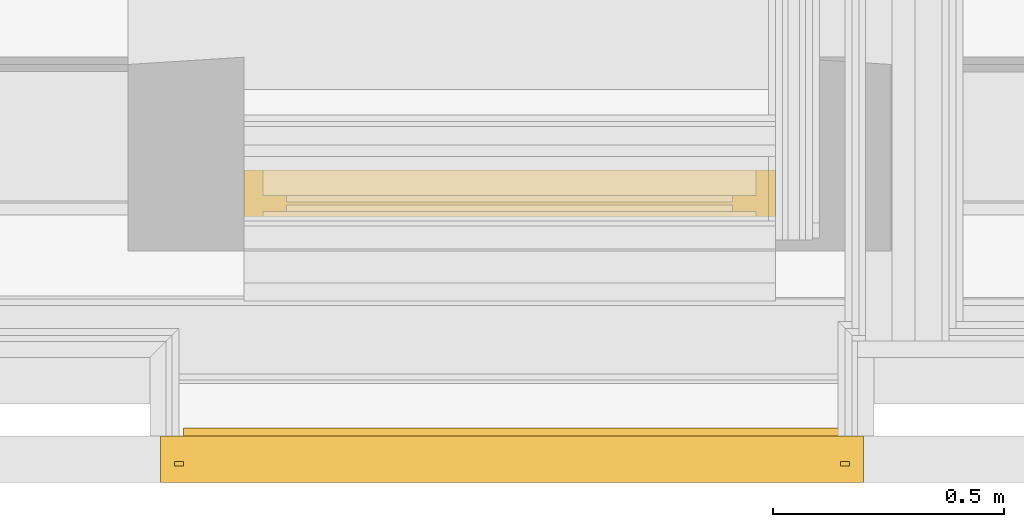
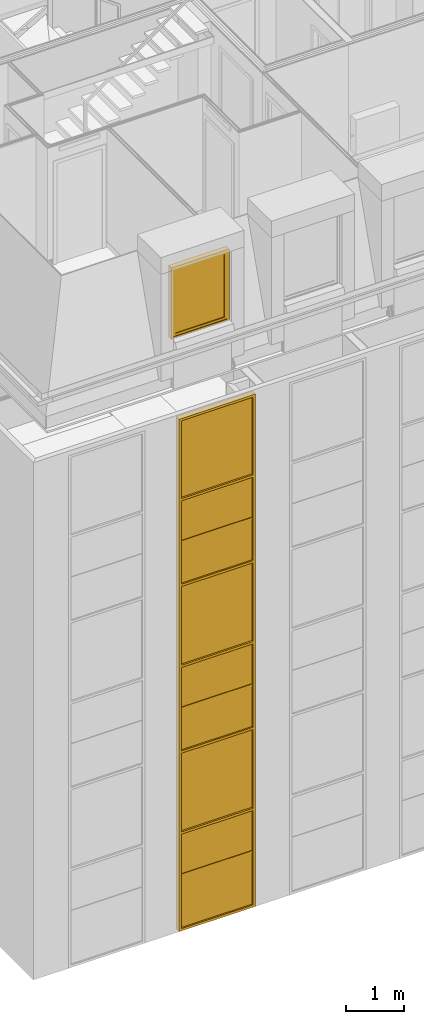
# One storey, part 92 of 169: 1 curtain wall, 1 window.
"""IFC2X3 building model written with IfcOpenShell, lengths in metres."""

import ifcopenshell
import ifcopenshell.guid

model = None  # the IFC model being written
_history = None  # IfcOwnerHistory: only IFC2X3 demands one
_inside = {}  # id of a spatial element -> (the spatial element, [elements in it])
_under = {}  # id of a project, library or spatial element -> (it, [spatial elements below it])
_declared = {}  # id of a project -> (the project, [libraries it declares])
_typed = {}  # id of a type object -> (the type object, [elements of that type])
_made_of = {}  # id of a material, layer set ... -> (it, [elements and type objects made of it])


def new_model(schema):
    """Start an empty IFC model of exactly this schema.

    Asked for "IFC4X3", IfcOpenShell would pick the latest addendum, in which some entities
    have other attributes; the version numbers below select the first issue.
    IFC2X3 requires an IfcOwnerHistory on every rooted entity: one is made here for all.
    """
    global model, _history
    if schema == "IFC4X3":
        model = ifcopenshell.file(schema_version=(4, 3, 0, 0))
    else:
        model = ifcopenshell.file(schema=schema)
    _inside.clear()
    _under.clear()
    _declared.clear()
    _typed.clear()
    _made_of.clear()
    _history = None
    if model.schema == "IFC2X3":
        org = make("IfcOrganization", Name="unknown")
        user = make(
            "IfcPersonAndOrganization",
            ThePerson=make("IfcPerson", FamilyName="unknown"),
            TheOrganization=org,
        )
        app = make(
            "IfcApplication",
            ApplicationDeveloper=org,
            Version="unknown",
            ApplicationFullName="unknown",
            ApplicationIdentifier="unknown",
        )
        _history = make(
            "IfcOwnerHistory",
            OwningUser=user,
            OwningApplication=app,
            ChangeAction="ADDED",
            CreationDate=0,
        )
    return model


def make(cls, **values):
    """One entity of the class cls with the attributes given. An attribute that is None is left unset."""
    return model.create_entity(
        cls, **{name: value for name, value in values.items() if value is not None}
    )


def entity(cls, *values):
    """Any entity or typed value of the class cls, its attributes in the order of the schema. None: left unset."""
    e = model.create_entity(cls)
    for i, value in enumerate(values):
        if value is not None:
            e[i] = value
    return e


def rooted(cls, **values):
    """An entity with a GlobalId (a new one), such as an element, a storey or a relation."""
    return make(cls, GlobalId=ifcopenshell.guid.new(), OwnerHistory=_history, **values)


def si_unit(unit_type, name, prefix=None):
    """IfcSIUnit, for example si_unit("LENGTHUNIT", "METRE", prefix="MILLI")."""
    return make("IfcSIUnit", UnitType=unit_type, Prefix=prefix, Name=name)


def converted_unit(unit_type, name, factor, base, dimensions=None, offset=None):
    """IfcConversionBasedUnit, such as the inch: factor (a typed value) times the base unit."""
    return make(
        "IfcConversionBasedUnit"
        if offset is None
        else "IfcConversionBasedUnitWithOffset",
        ConversionOffset=offset,
        Dimensions=None
        if dimensions is None
        else entity("IfcDimensionalExponents", *dimensions),
        UnitType=unit_type,
        Name=name,
        ConversionFactor=make(
            "IfcMeasureWithUnit", ValueComponent=factor, UnitComponent=base
        ),
    )


def derived_unit(unit_type, elements):
    """IfcDerivedUnit: a product of units, each with its exponent."""
    return make(
        "IfcDerivedUnit",
        Elements=[
            make("IfcDerivedUnitElement", Unit=unit, Exponent=power)
            for unit, power in elements
        ],
        UnitType=unit_type,
    )


def money_unit(currency):
    """IfcMonetaryUnit."""
    return make("IfcMonetaryUnit", Currency=currency)


def assignment(units):
    """IfcUnitAssignment: the units of a project."""
    return None if units is None else make("IfcUnitAssignment", Units=units)


def point(xyz):
    """IfcCartesianPoint."""
    return None if xyz is None else make("IfcCartesianPoint", Coordinates=xyz)


def direction(xyz):
    """IfcDirection."""
    return None if xyz is None else make("IfcDirection", DirectionRatios=xyz)


def frame(location, z_axis=None, x_axis=None):
    """IfcAxis2Placement3D, a coordinate frame: its origin and axes. An axis left out is left unset."""
    return make(
        "IfcAxis2Placement3D",
        Location=point(location),
        Axis=direction(z_axis),
        RefDirection=direction(x_axis),
    )


def origin_with_axes():
    """The frame at (0, 0, 0) with the z axis (0, 0, 1) and the x axis (1, 0, 0) written out."""
    return frame((0.0, 0.0, 0.0), z_axis=(0.0, 0.0, 1.0), x_axis=(1.0, 0.0, 0.0))


def place(relative_to, where):
    """IfcLocalPlacement: puts the frame where relative to a parent placement (None: the world)."""
    return make(
        "IfcLocalPlacement", PlacementRelTo=relative_to, RelativePlacement=where
    )


def context(
    kind, dimensions, precision=None, world=None, true_north=None, identifier=None
):
    """IfcGeometricRepresentationContext, for example the 3D "Model" context."""
    return make(
        "IfcGeometricRepresentationContext",
        ContextIdentifier=identifier,
        ContextType=kind,
        CoordinateSpaceDimension=dimensions,
        Precision=precision,
        WorldCoordinateSystem=world,
        TrueNorth=true_north,
    )


def subcontext(parent, identifier, kind, view, scale=None):
    """IfcGeometricRepresentationSubContext, for example "Body" below "Model"."""
    return make(
        "IfcGeometricRepresentationSubContext",
        ContextIdentifier=identifier,
        ContextType=kind,
        ParentContext=parent,
        TargetScale=scale,
        TargetView=view,
    )


def project(units=None, contexts=None):
    """IfcProject with its units and contexts."""
    return rooted(
        "IfcProject",
        Name="project",
        RepresentationContexts=contexts,
        UnitsInContext=assignment(units),
    )


def spatial(cls, under=None, at=None, **own):
    """A site, building, storey or space (cls), placed at a placement, below another one or the project."""
    s = rooted(cls, ObjectPlacement=at, **own)
    if under is not None:
        _under.setdefault(under.id(), (under, []))[1].append(s)
    return s


def faces_of(points, faces, orient=None, outer=None):
    """IfcFace entities. A face is a list of loops; a loop is a list of indices into points, from 0.

    orient and outer hold one flag for each loop. By default every Orientation is true, the
    first loop of a face is its IfcFaceOuterBound and the others are IfcFaceBound.
    """
    made = []
    for i, loops in enumerate(faces):
        bounds = []
        for j, loop in enumerate(loops):
            is_outer = j == 0 if outer is None else outer[i][j]
            bounds.append(
                make(
                    "IfcFaceOuterBound" if is_outer else "IfcFaceBound",
                    Bound=make("IfcPolyLoop", Polygon=[points[k] for k in loop]),
                    Orientation=True if orient is None else orient[i][j],
                )
            )
        made.append(make("IfcFace", Bounds=bounds))
    return made


def faceted_brep(points, faces, orient=None, outer=None, voids=None):
    """IfcFacetedBrep: a solid bounded by flat faces; with voids (closed shells), ...WithVoids."""
    shared = [point(p) for p in points]
    hull = make("IfcClosedShell", CfsFaces=faces_of(shared, faces, orient, outer))
    if voids is None:
        return make("IfcFacetedBrep", Outer=hull)
    return make(
        "IfcFacetedBrepWithVoids",
        Outer=hull,
        Voids=[
            make(cls, CfsFaces=faces_of(shared, fs, o, b)) for cls, fs, o, b in voids
        ],
    )


def shape(context_of_items, identifier, shape_type, items):
    """IfcShapeRepresentation: the items that make up one representation, for example the "Body"."""
    return make(
        "IfcShapeRepresentation",
        ContextOfItems=context_of_items,
        RepresentationIdentifier=identifier,
        RepresentationType=shape_type,
        Items=items,
    )


def material(Name=None, Category=None):
    """IfcMaterial."""
    return make("IfcMaterial", Name=Name, Category=Category)


def made_of(thing, what):
    """Note that an element or type object is made of a material, layer set ...; save() writes the relation."""
    if what is not None:
        _made_of.setdefault(what.id(), (what, []))[1].append(thing)
    return thing


def type_object(cls, material=None, **own):
    """A type object (cls), such as IfcWallType, which elements share."""
    return made_of(rooted(cls, **own), material)


def element(
    cls,
    number,
    at=None,
    inside=None,
    cuts=None,
    type_object=None,
    material=None,
    context=None,
    identifier="Body",
    shape_type=None,
    held_by="IfcProductDefinitionShape",
    body=None,
    shapes=None,
    **own,
):
    """One element of the class cls, such as IfcWall. Its Tag is "e" and its number.

    at: its placement. inside: the storey or other place that contains it. cuts: it is an
    opening in that element (IfcRelVoidsElement). A single representation is given by context,
    identifier, shape_type and body (its items); several are given by shapes. held_by: the class
    of the entity that holds the representations. save() writes the other relations.
    """
    e = rooted(cls, Tag="e%d" % number, ObjectPlacement=at, **own)
    if body is not None:
        shapes = [shape(context, identifier, shape_type, body)]
    if shapes is not None:
        e.Representation = make(held_by, Representations=shapes)
    if inside is not None:
        _inside.setdefault(inside.id(), (inside, []))[1].append(e)
    if cuts is not None:
        rooted(
            "IfcRelVoidsElement", RelatingBuildingElement=cuts, RelatedOpeningElement=e
        )
    if type_object is not None:
        _typed.setdefault(type_object.id(), (type_object, []))[1].append(e)
    return made_of(e, material)


def aggregate(whole, parts):
    """IfcRelAggregates: a whole, such as a stair, and the parts it consists of."""
    return rooted("IfcRelAggregates", RelatingObject=whole, RelatedObjects=parts)


def save(model, path):
    """Write the relations noted so far, then the file.

    IfcRelAggregates (storeys below a building ...), IfcRelContainedInSpatialStructure (elements
    in a storey), IfcRelDefinesByType, IfcRelAssociatesMaterial and IfcRelDeclares: one each for
    every whole, place, type object, material and project.
    """
    for whole, parts in _under.values():
        aggregate(whole, parts)
    for where, things in _inside.values():
        rooted(
            "IfcRelContainedInSpatialStructure",
            RelatedElements=things,
            RelatingStructure=where,
        )
    for kind, things in _typed.values():
        rooted("IfcRelDefinesByType", RelatedObjects=things, RelatingType=kind)
    for what, things in _made_of.values():
        rooted("IfcRelAssociatesMaterial", RelatedObjects=things, RelatingMaterial=what)
    for by, libraries in _declared.values():
        rooted("IfcRelDeclares", RelatingContext=by, RelatedDefinitions=libraries)
    model.write(path)


model = new_model("IFC2X3")

# Units and contexts
model_context = context("Model", 3, precision=1e-05, world=origin_with_axes(), true_north=direction((0.0, 1.0)))
body_context = subcontext(model_context, "Body", "Model", "MODEL_VIEW", scale=1.0)
ifc_project = project(units=[si_unit("LENGTHUNIT", "METRE"), si_unit("AREAUNIT", "SQUARE_METRE"), si_unit("VOLUMEUNIT", "CUBIC_METRE"), si_unit("ABSORBEDDOSEUNIT", "GRAY"), si_unit("AMOUNTOFSUBSTANCEUNIT", "MOLE"), si_unit("DOSEEQUIVALENTUNIT", "SIEVERT"), si_unit("ELECTRICCAPACITANCEUNIT", "FARAD"), si_unit("ELECTRICCHARGEUNIT", "COULOMB"), si_unit("ELECTRICCONDUCTANCEUNIT", "SIEMENS"), si_unit("ELECTRICCURRENTUNIT", "AMPERE"), si_unit("ELECTRICRESISTANCEUNIT", "OHM"), si_unit("ELECTRICVOLTAGEUNIT", "VOLT"), si_unit("ENERGYUNIT", "JOULE"), si_unit("FORCEUNIT", "NEWTON"), si_unit("FREQUENCYUNIT", "HERTZ"), si_unit("ILLUMINANCEUNIT", "LUX"), si_unit("INDUCTANCEUNIT", "HENRY"), si_unit("LUMINOUSFLUXUNIT", "LUMEN"), si_unit("LUMINOUSINTENSITYUNIT", "CANDELA"), si_unit("MAGNETICFLUXDENSITYUNIT", "TESLA"), si_unit("MAGNETICFLUXUNIT", "WEBER"), si_unit("MASSUNIT", "GRAM"), converted_unit("PLANEANGLEUNIT", "degree", entity("IfcReal", 0.0174532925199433), si_unit("PLANEANGLEUNIT", "RADIAN"), dimensions=[0, 0, 0, 0, 0, 0, 0]), si_unit("POWERUNIT", "WATT"), si_unit("PRESSUREUNIT", "PASCAL"), si_unit("RADIOACTIVITYUNIT", "BECQUEREL"), si_unit("SOLIDANGLEUNIT", "STERADIAN"), si_unit("THERMODYNAMICTEMPERATUREUNIT", "KELVIN"), si_unit("TIMEUNIT", "SECOND"), derived_unit("ACCELERATIONUNIT", [(si_unit("LENGTHUNIT", "METRE"), 1), (si_unit("TIMEUNIT", "SECOND"), -2)]), derived_unit("ANGULARVELOCITYUNIT", [(converted_unit("PLANEANGLEUNIT", "degree", entity("IfcReal", 0.0174532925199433), si_unit("PLANEANGLEUNIT", "RADIAN"), dimensions=[0, 0, 0, 0, 0, 0, 0]), 1), (si_unit("TIMEUNIT", "SECOND"), -1)]), derived_unit("CURVATUREUNIT", [(converted_unit("PLANEANGLEUNIT", "degree", entity("IfcReal", 0.0174532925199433), si_unit("PLANEANGLEUNIT", "RADIAN"), dimensions=[0, 0, 0, 0, 0, 0, 0]), 1), (si_unit("LENGTHUNIT", "METRE"), -1)]), derived_unit("DYNAMICVISCOSITYUNIT", [(si_unit("PRESSUREUNIT", "PASCAL"), 1), (si_unit("TIMEUNIT", "SECOND"), 1)]), derived_unit("HEATFLUXDENSITYUNIT", [(si_unit("POWERUNIT", "WATT"), 1), (si_unit("LENGTHUNIT", "METRE"), -2)]), derived_unit("HEATINGVALUEUNIT", [(si_unit("ENERGYUNIT", "JOULE"), 1), (si_unit("MASSUNIT", "GRAM"), -1)]), derived_unit("INTEGERCOUNTRATEUNIT", [(si_unit("TIMEUNIT", "SECOND"), -1)]), derived_unit("IONCONCENTRATIONUNIT", [(si_unit("MASSUNIT", "GRAM"), 1), (si_unit("VOLUMEUNIT", "CUBIC_METRE"), -1)]), derived_unit("ISOTHERMALMOISTURECAPACITYUNIT", [(si_unit("VOLUMEUNIT", "CUBIC_METRE"), 1), (si_unit("MASSUNIT", "GRAM"), -1)]), derived_unit("KINEMATICVISCOSITYUNIT", [(si_unit("AREAUNIT", "SQUARE_METRE"), 1), (si_unit("TIMEUNIT", "SECOND"), -1)]), derived_unit("LINEARFORCEUNIT", [(si_unit("FORCEUNIT", "NEWTON"), 1), (si_unit("LENGTHUNIT", "METRE"), -1)]), derived_unit("LINEARMOMENTUNIT", [(si_unit("FORCEUNIT", "NEWTON"), 1), (si_unit("LENGTHUNIT", "METRE"), -1)]), derived_unit("LINEARSTIFFNESSUNIT", [(si_unit("FORCEUNIT", "NEWTON"), 1), (si_unit("LENGTHUNIT", "METRE"), -1)]), derived_unit("LINEARVELOCITYUNIT", [(si_unit("LENGTHUNIT", "METRE"), 1), (si_unit("TIMEUNIT", "SECOND"), -1)]), derived_unit("LUMINOUSINTENSITYDISTRIBUTIONUNIT", [(si_unit("LUMINOUSINTENSITYUNIT", "CANDELA"), 1), (si_unit("LUMINOUSFLUXUNIT", "LUMEN"), -1)]), derived_unit("MASSDENSITYUNIT", [(si_unit("MASSUNIT", "GRAM"), 1), (si_unit("VOLUMEUNIT", "CUBIC_METRE"), -1)]), derived_unit("MASSFLOWRATEUNIT", [(si_unit("MASSUNIT", "GRAM"), 1), (si_unit("TIMEUNIT", "SECOND"), -1)]), derived_unit("MASSPERLENGTHUNIT", [(si_unit("MASSUNIT", "GRAM"), 1), (si_unit("LENGTHUNIT", "METRE"), -1)]), derived_unit("MODULUSOFELASTICITYUNIT", [(si_unit("FORCEUNIT", "NEWTON"), 1), (si_unit("AREAUNIT", "SQUARE_METRE"), -1)]), derived_unit("MODULUSOFLINEARSUBGRADEREACTIONUNIT", [(si_unit("FORCEUNIT", "NEWTON"), 1), (si_unit("LENGTHUNIT", "METRE"), -2)]), derived_unit("MODULUSOFROTATIONALSUBGRADEREACTIONUNIT", [(si_unit("FORCEUNIT", "NEWTON"), 1), (si_unit("LENGTHUNIT", "METRE"), 1)]), derived_unit("MODULUSOFSUBGRADEREACTIONUNIT", [(si_unit("FORCEUNIT", "NEWTON"), 1), (si_unit("VOLUMEUNIT", "CUBIC_METRE"), -1)]), derived_unit("MOISTUREDIFFUSIVITYUNIT", [(si_unit("VOLUMEUNIT", "CUBIC_METRE"), 1), (si_unit("TIMEUNIT", "SECOND"), -1)]), derived_unit("MOLECULARWEIGHTUNIT", [(si_unit("MASSUNIT", "GRAM"), 1), (si_unit("AMOUNTOFSUBSTANCEUNIT", "MOLE"), -1)]), derived_unit("PLANARFORCEUNIT", [(si_unit("FORCEUNIT", "NEWTON"), 1), (si_unit("LENGTHUNIT", "METRE"), -2)]), derived_unit("ROTATIONALFREQUENCYUNIT", [(si_unit("TIMEUNIT", "SECOND"), -1)]), derived_unit("ROTATIONALMASSUNIT", [(si_unit("MASSUNIT", "GRAM"), 1), (si_unit("LENGTHUNIT", "METRE"), 2)]), derived_unit("ROTATIONALSTIFFNESSUNIT", [(si_unit("FORCEUNIT", "NEWTON"), 1), (si_unit("LENGTHUNIT", "METRE"), 1), (converted_unit("PLANEANGLEUNIT", "degree", entity("IfcReal", 0.0174532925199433), si_unit("PLANEANGLEUNIT", "RADIAN"), dimensions=[0, 0, 0, 0, 0, 0, 0]), -1)]), derived_unit("SECTIONAREAINTEGRALUNIT", [(si_unit("LENGTHUNIT", "METRE"), 5)]), derived_unit("SECTIONMODULUSUNIT", [(si_unit("LENGTHUNIT", "METRE"), 3)]), derived_unit("SHEARMODULUSUNIT", [(si_unit("FORCEUNIT", "NEWTON"), 1), (si_unit("AREAUNIT", "SQUARE_METRE"), -1)]), derived_unit("SOUNDPOWERUNIT", [(si_unit("ENERGYUNIT", "JOULE"), 1), (si_unit("TIMEUNIT", "SECOND"), -1)]), derived_unit("SPECIFICHEATCAPACITYUNIT", [(si_unit("FORCEUNIT", "NEWTON"), 1), (si_unit("MASSUNIT", "GRAM"), -1), (si_unit("THERMODYNAMICTEMPERATUREUNIT", "KELVIN"), -1)]), derived_unit("TEMPERATUREGRADIENTUNIT", [(si_unit("THERMODYNAMICTEMPERATUREUNIT", "KELVIN"), 1), (si_unit("LENGTHUNIT", "METRE"), -1)]), derived_unit("THERMALADMITTANCEUNIT", [(si_unit("POWERUNIT", "WATT"), 1), (si_unit("AREAUNIT", "SQUARE_METRE"), -1), (si_unit("THERMODYNAMICTEMPERATUREUNIT", "KELVIN"), -1)]), derived_unit("THERMALCONDUCTANCEUNIT", [(si_unit("POWERUNIT", "WATT"), 1), (si_unit("LENGTHUNIT", "METRE"), -1), (si_unit("THERMODYNAMICTEMPERATUREUNIT", "KELVIN"), -1)]), derived_unit("THERMALEXPANSIONCOEFFICIENTUNIT", [(si_unit("THERMODYNAMICTEMPERATUREUNIT", "KELVIN"), -1)]), derived_unit("THERMALRESISTANCEUNIT", [(si_unit("AREAUNIT", "SQUARE_METRE"), 1), (si_unit("POWERUNIT", "WATT"), -1)]), derived_unit("THERMALTRANSMITTANCEUNIT", [(si_unit("POWERUNIT", "WATT"), 1), (si_unit("AREAUNIT", "SQUARE_METRE"), -1), (si_unit("THERMODYNAMICTEMPERATUREUNIT", "KELVIN"), -1)]), derived_unit("TORQUEUNIT", [(si_unit("FORCEUNIT", "NEWTON"), 1), (si_unit("LENGTHUNIT", "METRE"), 1)]), derived_unit("VAPORPERMEABILITYUNIT", [(si_unit("MASSUNIT", "GRAM"), 1), (si_unit("TIMEUNIT", "SECOND"), -1)]), derived_unit("VOLUMETRICFLOWRATEUNIT", [(si_unit("VOLUMEUNIT", "CUBIC_METRE"), 1), (si_unit("TIMEUNIT", "SECOND"), -1)]), derived_unit("WARPINGCONSTANTUNIT", [(si_unit("LENGTHUNIT", "METRE"), 6)]), derived_unit("WARPINGMOMENTUNIT", [(si_unit("FORCEUNIT", "NEWTON"), 1), (si_unit("LENGTHUNIT", "METRE"), 2)]), money_unit("GBP")], contexts=[model_context])

# Site, building, storey
site_placement = place(None, origin_with_axes())
site = spatial("IfcSite", under=ifc_project, at=site_placement, Name="Site", CompositionType="ELEMENT")
building_placement = place(site_placement, origin_with_axes())
building = spatial("IfcBuilding", under=site, at=building_placement, Name="Building01", CompositionType="ELEMENT")
storey_placement = place(building_placement, frame((0.0, 0.0, 5.15), z_axis=(0.0, 0.0, 1.0), x_axis=(1.0, 0.0, 0.0)))
storey = spatial("IfcBuildingStorey", under=building, at=storey_placement, Name="1F", CompositionType="ELEMENT", Elevation=5.15)

# Curtain wall
ifc_material_1 = material(Name="A-CurtainWall_Frame")
curtain_wall_type = type_object("IfcCurtainWallType", Name="Pattern - Maximum Spacing", PredefinedType="NOTDEFINED")
curtain_wall_placement = place(storey_placement, frame((0.0, 0.0, -5.15), z_axis=(0.0, 0.0, 1.0), x_axis=(1.0, 0.0, 0.0)))
element("IfcCurtainWall", 1, at=curtain_wall_placement, inside=storey, type_object=curtain_wall_type, material=ifc_material_1, Name="17", ObjectType="Pattern - Maximum Spacing", context=body_context, shape_type="Brep", body=[
    faceted_brep([(2.92, 0.05, 4.0), (2.92, 0.03, 4.0), (2.92, 0.03, 5.118945), (2.92, 0.05, 5.118945), (4.38, 0.05, 4.0), (4.38, 0.03, 4.0), (4.38, 0.05, 5.118945), (4.38, 0.03, 5.118945)], [[[0, 1, 2, 3]], [[4, 5, 1, 0]], [[6, 7, 5, 4]], [[3, 2, 7, 6]], [[1, 5, 7, 2]], [[3, 6, 4, 0]]]),
    faceted_brep([(2.94, 0.045, 3.97), (2.92, 0.045, 3.97), (2.92, 0.035, 3.97), (2.94, 0.035, 3.97), (2.94, 0.0, 3.97), (2.89, 0.0, 3.97), (2.89, 0.1, 3.97), (2.94, 0.1, 3.97), (2.94, 0.1, 5.123945), (2.94, 0.045, 5.123945), (2.92, 0.045, 5.123945), (2.92, 0.035, 5.123945), (2.94, 0.035, 5.123945), (2.94, 0.0, 5.123945), (2.89, 0.0, 5.123945), (2.89, 0.1, 5.123945)], [[[0, 1, 2, 3, 4, 5, 6, 7]], [[7, 8, 9, 0]], [[0, 9, 10, 1]], [[1, 10, 11, 2]], [[2, 11, 12, 3]], [[3, 12, 13, 4]], [[4, 13, 14, 5]], [[5, 14, 15, 6]], [[6, 15, 8, 7]]]),
    faceted_brep([(4.36, 0.045, 4.0), (4.36, 0.035, 4.0), (4.36, 0.035, 4.02), (4.36, 0.0, 4.02), (4.36, 0.0, 3.97), (4.36, 0.1, 3.97), (4.36, 0.1, 4.02), (4.36, 0.045, 4.02), (2.94, 0.045, 4.02), (2.94, 0.045, 4.0), (2.94, 0.035, 4.0), (2.94, 0.035, 4.02), (2.94, 0.0, 4.02), (2.94, 0.0, 3.97), (2.94, 0.1, 3.97), (2.94, 0.1, 4.02)], [[[0, 1, 2, 3, 4, 5, 6, 7]], [[7, 8, 9, 0]], [[0, 9, 10, 1]], [[1, 10, 11, 2]], [[2, 11, 12, 3]], [[3, 12, 13, 4]], [[4, 13, 14, 5]], [[5, 14, 15, 6]], [[6, 15, 8, 7]], [[8, 15, 14, 13, 12, 11, 10, 9]]]),
    faceted_brep([(4.36, 0.045, 3.97), (4.36, 0.045, 5.123945), (4.36, 0.1, 5.123945), (4.36, 0.1, 3.97), (4.38, 0.045, 3.97), (4.38, 0.045, 5.123945), (4.38, 0.035, 3.97), (4.38, 0.035, 5.123945), (4.36, 0.035, 3.97), (4.36, 0.035, 5.123945), (4.36, 0.0, 3.97), (4.36, 0.0, 5.123945), (4.41, 0.0, 3.97), (4.41, 0.0, 5.123945), (4.41, 0.1, 3.97), (4.41, 0.1, 5.123945)], [[[0, 1, 2, 3]], [[4, 5, 1, 0]], [[6, 7, 5, 4]], [[8, 9, 7, 6]], [[10, 11, 9, 8]], [[12, 13, 11, 10]], [[14, 15, 13, 12]], [[3, 2, 15, 14]], [[14, 12, 10, 8, 6, 4, 0, 3]]]),
    faceted_brep([(2.94, 0.0625, 5.118945), (2.94, 0.0525, 5.118945), (2.94, 0.0525, 5.098945), (2.94, 0.0175, 5.098945), (2.94, 0.0175, 5.148945), (2.94, 0.0525, 5.148945), (2.94, 0.0525, 5.128945), (2.94, 0.0625, 5.128945), (2.94, 0.0625, 5.148945), (2.94, 0.1175, 5.148945), (2.94, 0.1175, 5.098945), (2.94, 0.0625, 5.098945), (4.36, 0.0625, 5.098945), (4.36, 0.0625, 5.118945), (4.36, 0.0525, 5.118945), (4.36, 0.0525, 5.098945), (4.36, 0.0175, 5.098945), (4.36, 0.0175, 5.148945), (4.36, 0.0525, 5.148945), (4.36, 0.0625, 5.128945), (4.36, 0.0625, 5.148945), (4.36, 0.0525, 5.128945), (4.36, 0.1175, 5.098945), (4.36, 0.1175, 5.148945)], [[[0, 1, 2, 3, 4, 5, 6, 7, 8, 9, 10, 11]], [[11, 12, 13, 0]], [[0, 13, 14, 1]], [[1, 14, 15, 2]], [[2, 15, 16, 3]], [[3, 16, 17, 4]], [[4, 17, 18, 5]], [[7, 19, 20, 8]], [[6, 21, 19, 7]], [[5, 18, 21, 6]], [[10, 22, 12, 11]], [[9, 23, 22, 10]], [[8, 20, 23, 9]], [[20, 19, 21, 18, 17, 16, 15, 14, 13, 12, 22, 23]]]),
    faceted_brep([(2.92, 0.05, 5.128945), (2.92, 0.03, 5.128945), (2.92, 0.03, 6.018105), (2.92, 0.05, 6.018105), (4.38, 0.05, 5.128945), (4.38, 0.03, 5.128945), (4.38, 0.05, 6.018105), (4.38, 0.03, 6.018105)], [[[0, 1, 2, 3]], [[4, 5, 1, 0]], [[6, 7, 5, 4]], [[3, 2, 7, 6]], [[1, 5, 7, 2]], [[3, 6, 4, 0]]]),
    faceted_brep([(2.89, 0.1, 6.023105), (2.89, 0.1, 5.123945), (2.89, 0.0, 5.123945), (2.89, 0.0, 6.023105), (2.94, 0.1, 6.023105), (2.94, 0.1, 5.123945), (2.94, 0.045, 6.023105), (2.94, 0.045, 5.123945), (2.92, 0.045, 6.023105), (2.92, 0.045, 5.123945), (2.92, 0.035, 6.023105), (2.92, 0.035, 5.123945), (2.94, 0.035, 6.023105), (2.94, 0.035, 5.123945), (2.94, 0.0, 6.023105), (2.94, 0.0, 5.123945)], [[[0, 1, 2, 3]], [[4, 5, 1, 0]], [[6, 7, 5, 4]], [[8, 9, 7, 6]], [[10, 11, 9, 8]], [[12, 13, 11, 10]], [[14, 15, 13, 12]], [[3, 2, 15, 14]]]),
    faceted_brep([(4.36, 0.045, 5.123945), (4.36, 0.045, 6.023105), (4.36, 0.1, 6.023105), (4.36, 0.1, 5.123945), (4.38, 0.045, 5.123945), (4.38, 0.045, 6.023105), (4.38, 0.035, 5.123945), (4.38, 0.035, 6.023105), (4.36, 0.035, 5.123945), (4.36, 0.035, 6.023105), (4.36, 0.0, 5.123945), (4.36, 0.0, 6.023105), (4.41, 0.0, 5.123945), (4.41, 0.0, 6.023105), (4.41, 0.1, 5.123945), (4.41, 0.1, 6.023105)], [[[0, 1, 2, 3]], [[4, 5, 1, 0]], [[6, 7, 5, 4]], [[8, 9, 7, 6]], [[10, 11, 9, 8]], [[12, 13, 11, 10]], [[14, 15, 13, 12]], [[3, 2, 15, 14]]]),
    faceted_brep([(2.94, 0.045, 6.018105), (2.94, 0.035, 6.018105), (2.94, 0.035, 5.998105), (2.94, 0.0, 5.998105), (2.94, 0.0, 6.048105), (2.94, 0.035, 6.048105), (2.94, 0.035, 6.028105), (2.94, 0.045, 6.028105), (2.94, 0.045, 6.048105), (2.94, 0.1, 6.048105), (2.94, 0.1, 5.998105), (2.94, 0.045, 5.998105), (4.36, 0.045, 5.998105), (4.36, 0.045, 6.018105), (4.36, 0.035, 6.018105), (4.36, 0.035, 5.998105), (4.36, 0.0, 5.998105), (4.36, 0.0, 6.048105), (4.36, 0.035, 6.048105), (4.36, 0.045, 6.028105), (4.36, 0.045, 6.048105), (4.36, 0.035, 6.028105), (4.36, 0.1, 5.998105), (4.36, 0.1, 6.048105)], [[[0, 1, 2, 3, 4, 5, 6, 7, 8, 9, 10, 11]], [[11, 12, 13, 0]], [[0, 13, 14, 1]], [[1, 14, 15, 2]], [[2, 15, 16, 3]], [[3, 16, 17, 4]], [[4, 17, 18, 5]], [[7, 19, 20, 8]], [[6, 21, 19, 7]], [[5, 18, 21, 6]], [[10, 22, 12, 11]], [[9, 23, 22, 10]], [[8, 20, 23, 9]], [[20, 19, 21, 18, 17, 16, 15, 14, 13, 12, 22, 23]]]),
    faceted_brep([(2.92, 0.045, 6.028105), (2.92, 0.035, 6.028105), (2.92, 0.035, 7.716517), (2.92, 0.045, 7.716517), (4.38, 0.045, 6.028105), (4.38, 0.035, 6.028105), (4.38, 0.045, 7.716517), (4.38, 0.035, 7.716517)], [[[0, 1, 2, 3]], [[4, 5, 1, 0]], [[6, 7, 5, 4]], [[3, 2, 7, 6]], [[1, 5, 7, 2]], [[3, 6, 4, 0]]]),
    faceted_brep([(2.89, 0.1, 7.721517), (2.89, 0.1, 6.023105), (2.89, 0.0, 6.023105), (2.89, 0.0, 7.721517), (2.94, 0.1, 7.721517), (2.94, 0.1, 6.023105), (2.94, 0.045, 7.721517), (2.94, 0.045, 6.023105), (2.92, 0.045, 7.721517), (2.92, 0.045, 6.023105), (2.92, 0.035, 7.721517), (2.92, 0.035, 6.023105), (2.94, 0.035, 7.721517), (2.94, 0.035, 6.023105), (2.94, 0.0, 7.721517), (2.94, 0.0, 6.023105)], [[[0, 1, 2, 3]], [[4, 5, 1, 0]], [[6, 7, 5, 4]], [[8, 9, 7, 6]], [[10, 11, 9, 8]], [[12, 13, 11, 10]], [[14, 15, 13, 12]], [[3, 2, 15, 14]]]),
    faceted_brep([(4.36, 0.045, 6.023105), (4.36, 0.045, 7.721517), (4.36, 0.1, 7.721517), (4.36, 0.1, 6.023105), (4.38, 0.045, 6.023105), (4.38, 0.045, 7.721517), (4.38, 0.035, 6.023105), (4.38, 0.035, 7.721517), (4.36, 0.035, 6.023105), (4.36, 0.035, 7.721517), (4.36, 0.0, 6.023105), (4.36, 0.0, 7.721517), (4.41, 0.0, 6.023105), (4.41, 0.0, 7.721517), (4.41, 0.1, 6.023105), (4.41, 0.1, 7.721517)], [[[0, 1, 2, 3]], [[4, 5, 1, 0]], [[6, 7, 5, 4]], [[8, 9, 7, 6]], [[10, 11, 9, 8]], [[12, 13, 11, 10]], [[14, 15, 13, 12]], [[3, 2, 15, 14]]]),
    faceted_brep([(2.94, 0.045, 7.716517), (2.94, 0.035, 7.716517), (2.94, 0.035, 7.696517), (2.94, 0.0, 7.696517), (2.94, 0.0, 7.746517), (2.94, 0.035, 7.746517), (2.94, 0.035, 7.726517), (2.94, 0.045, 7.726517), (2.94, 0.045, 7.746517), (2.94, 0.1, 7.746517), (2.94, 0.1, 7.696517), (2.94, 0.045, 7.696517), (4.36, 0.045, 7.696517), (4.36, 0.045, 7.716517), (4.36, 0.035, 7.716517), (4.36, 0.035, 7.696517), (4.36, 0.0, 7.696517), (4.36, 0.0, 7.746517), (4.36, 0.035, 7.746517), (4.36, 0.045, 7.726517), (4.36, 0.045, 7.746517), (4.36, 0.035, 7.726517), (4.36, 0.1, 7.696517), (4.36, 0.1, 7.746517)], [[[0, 1, 2, 3, 4, 5, 6, 7, 8, 9, 10, 11]], [[11, 12, 13, 0]], [[0, 13, 14, 1]], [[1, 14, 15, 2]], [[2, 15, 16, 3]], [[3, 16, 17, 4]], [[4, 17, 18, 5]], [[7, 19, 20, 8]], [[6, 21, 19, 7]], [[5, 18, 21, 6]], [[10, 22, 12, 11]], [[9, 23, 22, 10]], [[8, 20, 23, 9]], [[20, 19, 21, 18, 17, 16, 15, 14, 13, 12, 22, 23]]]),
    faceted_brep([(2.92, 0.05, 7.726517), (2.92, 0.03, 7.726517), (2.92, 0.03, 8.615677), (2.92, 0.05, 8.615677), (4.38, 0.05, 7.726517), (4.38, 0.03, 7.726517), (4.38, 0.05, 8.615677), (4.38, 0.03, 8.615677)], [[[0, 1, 2, 3]], [[4, 5, 1, 0]], [[6, 7, 5, 4]], [[3, 2, 7, 6]], [[1, 5, 7, 2]], [[3, 6, 4, 0]]]),
    faceted_brep([(2.89, 0.1, 8.620677), (2.89, 0.1, 7.721517), (2.89, 0.0, 7.721517), (2.89, 0.0, 8.620677), (2.94, 0.1, 8.620677), (2.94, 0.1, 7.721517), (2.94, 0.045, 8.620677), (2.94, 0.045, 7.721517), (2.92, 0.045, 8.620677), (2.92, 0.045, 7.721517), (2.92, 0.035, 8.620677), (2.92, 0.035, 7.721517), (2.94, 0.035, 8.620677), (2.94, 0.035, 7.721517), (2.94, 0.0, 8.620677), (2.94, 0.0, 7.721517)], [[[0, 1, 2, 3]], [[4, 5, 1, 0]], [[6, 7, 5, 4]], [[8, 9, 7, 6]], [[10, 11, 9, 8]], [[12, 13, 11, 10]], [[14, 15, 13, 12]], [[3, 2, 15, 14]]]),
    faceted_brep([(4.36, 0.045, 7.721517), (4.36, 0.045, 8.620677), (4.36, 0.1, 8.620677), (4.36, 0.1, 7.721517), (4.38, 0.045, 7.721517), (4.38, 0.045, 8.620677), (4.38, 0.035, 7.721517), (4.38, 0.035, 8.620677), (4.36, 0.035, 7.721517), (4.36, 0.035, 8.620677), (4.36, 0.0, 7.721517), (4.36, 0.0, 8.620677), (4.41, 0.0, 7.721517), (4.41, 0.0, 8.620677), (4.41, 0.1, 7.721517), (4.41, 0.1, 8.620677)], [[[0, 1, 2, 3]], [[4, 5, 1, 0]], [[6, 7, 5, 4]], [[8, 9, 7, 6]], [[10, 11, 9, 8]], [[12, 13, 11, 10]], [[14, 15, 13, 12]], [[3, 2, 15, 14]]]),
    faceted_brep([(2.94, 0.0625, 8.615677), (2.94, 0.0525, 8.615677), (2.94, 0.0525, 8.595677), (2.94, 0.0175, 8.595677), (2.94, 0.0175, 8.645677), (2.94, 0.0525, 8.645677), (2.94, 0.0525, 8.625677), (2.94, 0.0625, 8.625677), (2.94, 0.0625, 8.645677), (2.94, 0.1175, 8.645677), (2.94, 0.1175, 8.595677), (2.94, 0.0625, 8.595677), (4.36, 0.0625, 8.595677), (4.36, 0.0625, 8.615677), (4.36, 0.0525, 8.615677), (4.36, 0.0525, 8.595677), (4.36, 0.0175, 8.595677), (4.36, 0.0175, 8.645677), (4.36, 0.0525, 8.645677), (4.36, 0.0625, 8.625677), (4.36, 0.0625, 8.645677), (4.36, 0.0525, 8.625677), (4.36, 0.1175, 8.595677), (4.36, 0.1175, 8.645677)], [[[0, 1, 2, 3, 4, 5, 6, 7, 8, 9, 10, 11]], [[11, 12, 13, 0]], [[0, 13, 14, 1]], [[1, 14, 15, 2]], [[2, 15, 16, 3]], [[3, 16, 17, 4]], [[4, 17, 18, 5]], [[7, 19, 20, 8]], [[6, 21, 19, 7]], [[5, 18, 21, 6]], [[10, 22, 12, 11]], [[9, 23, 22, 10]], [[8, 20, 23, 9]], [[20, 19, 21, 18, 17, 16, 15, 14, 13, 12, 22, 23]]]),
    faceted_brep([(2.92, 0.05, 8.625677), (2.92, 0.03, 8.625677), (2.92, 0.03, 9.514837), (2.92, 0.05, 9.514837), (4.38, 0.05, 8.625677), (4.38, 0.03, 8.625677), (4.38, 0.05, 9.514837), (4.38, 0.03, 9.514837)], [[[0, 1, 2, 3]], [[4, 5, 1, 0]], [[6, 7, 5, 4]], [[3, 2, 7, 6]], [[1, 5, 7, 2]], [[3, 6, 4, 0]]]),
    faceted_brep([(2.89, 0.1, 9.519837), (2.89, 0.1, 8.620677), (2.89, 0.0, 8.620677), (2.89, 0.0, 9.519837), (2.94, 0.1, 9.519837), (2.94, 0.1, 8.620677), (2.94, 0.045, 9.519837), (2.94, 0.045, 8.620677), (2.92, 0.045, 9.519837), (2.92, 0.045, 8.620677), (2.92, 0.035, 9.519837), (2.92, 0.035, 8.620677), (2.94, 0.035, 9.519837), (2.94, 0.035, 8.620677), (2.94, 0.0, 9.519837), (2.94, 0.0, 8.620677)], [[[0, 1, 2, 3]], [[4, 5, 1, 0]], [[6, 7, 5, 4]], [[8, 9, 7, 6]], [[10, 11, 9, 8]], [[12, 13, 11, 10]], [[14, 15, 13, 12]], [[3, 2, 15, 14]]]),
    faceted_brep([(4.36, 0.045, 8.620677), (4.36, 0.045, 9.519837), (4.36, 0.1, 9.519837), (4.36, 0.1, 8.620677), (4.38, 0.045, 8.620677), (4.38, 0.045, 9.519837), (4.38, 0.035, 8.620677), (4.38, 0.035, 9.519837), (4.36, 0.035, 8.620677), (4.36, 0.035, 9.519837), (4.36, 0.0, 8.620677), (4.36, 0.0, 9.519837), (4.41, 0.0, 8.620677), (4.41, 0.0, 9.519837), (4.41, 0.1, 8.620677), (4.41, 0.1, 9.519837)], [[[0, 1, 2, 3]], [[4, 5, 1, 0]], [[6, 7, 5, 4]], [[8, 9, 7, 6]], [[10, 11, 9, 8]], [[12, 13, 11, 10]], [[14, 15, 13, 12]], [[3, 2, 15, 14]]]),
    faceted_brep([(2.94, 0.045, 9.514837), (2.94, 0.035, 9.514837), (2.94, 0.035, 9.494837), (2.94, 0.0, 9.494837), (2.94, 0.0, 9.544837), (2.94, 0.035, 9.544837), (2.94, 0.035, 9.524837), (2.94, 0.045, 9.524837), (2.94, 0.045, 9.544837), (2.94, 0.1, 9.544837), (2.94, 0.1, 9.494837), (2.94, 0.045, 9.494837), (4.36, 0.045, 9.494837), (4.36, 0.045, 9.514837), (4.36, 0.035, 9.514837), (4.36, 0.035, 9.494837), (4.36, 0.0, 9.494837), (4.36, 0.0, 9.544837), (4.36, 0.035, 9.544837), (4.36, 0.045, 9.524837), (4.36, 0.045, 9.544837), (4.36, 0.035, 9.524837), (4.36, 0.1, 9.494837), (4.36, 0.1, 9.544837)], [[[0, 1, 2, 3, 4, 5, 6, 7, 8, 9, 10, 11]], [[11, 12, 13, 0]], [[0, 13, 14, 1]], [[1, 14, 15, 2]], [[2, 15, 16, 3]], [[3, 16, 17, 4]], [[4, 17, 18, 5]], [[7, 19, 20, 8]], [[6, 21, 19, 7]], [[5, 18, 21, 6]], [[10, 22, 12, 11]], [[9, 23, 22, 10]], [[8, 20, 23, 9]], [[20, 19, 21, 18, 17, 16, 15, 14, 13, 12, 22, 23]]]),
    faceted_brep([(2.92, 0.045, 9.524837), (2.92, 0.035, 9.524837), (2.92, 0.035, 11.213249), (2.92, 0.045, 11.213249), (4.38, 0.045, 9.524837), (4.38, 0.035, 9.524837), (4.38, 0.045, 11.213249), (4.38, 0.035, 11.213249)], [[[0, 1, 2, 3]], [[4, 5, 1, 0]], [[6, 7, 5, 4]], [[3, 2, 7, 6]], [[1, 5, 7, 2]], [[3, 6, 4, 0]]]),
    faceted_brep([(2.89, 0.1, 11.218249), (2.89, 0.1, 9.519837), (2.89, 0.0, 9.519837), (2.89, 0.0, 11.218249), (2.94, 0.1, 11.218249), (2.94, 0.1, 9.519837), (2.94, 0.045, 11.218249), (2.94, 0.045, 9.519837), (2.92, 0.045, 11.218249), (2.92, 0.045, 9.519837), (2.92, 0.035, 11.218249), (2.92, 0.035, 9.519837), (2.94, 0.035, 11.218249), (2.94, 0.035, 9.519837), (2.94, 0.0, 11.218249), (2.94, 0.0, 9.519837)], [[[0, 1, 2, 3]], [[4, 5, 1, 0]], [[6, 7, 5, 4]], [[8, 9, 7, 6]], [[10, 11, 9, 8]], [[12, 13, 11, 10]], [[14, 15, 13, 12]], [[3, 2, 15, 14]]]),
    faceted_brep([(4.36, 0.045, 9.519837), (4.36, 0.045, 11.218249), (4.36, 0.1, 11.218249), (4.36, 0.1, 9.519837), (4.38, 0.045, 9.519837), (4.38, 0.045, 11.218249), (4.38, 0.035, 9.519837), (4.38, 0.035, 11.218249), (4.36, 0.035, 9.519837), (4.36, 0.035, 11.218249), (4.36, 0.0, 9.519837), (4.36, 0.0, 11.218249), (4.41, 0.0, 9.519837), (4.41, 0.0, 11.218249), (4.41, 0.1, 9.519837), (4.41, 0.1, 11.218249)], [[[0, 1, 2, 3]], [[4, 5, 1, 0]], [[6, 7, 5, 4]], [[8, 9, 7, 6]], [[10, 11, 9, 8]], [[12, 13, 11, 10]], [[14, 15, 13, 12]], [[3, 2, 15, 14]]]),
    faceted_brep([(2.94, 0.045, 11.213249), (2.94, 0.035, 11.213249), (2.94, 0.035, 11.193249), (2.94, 0.0, 11.193249), (2.94, 0.0, 11.243249), (2.94, 0.035, 11.243249), (2.94, 0.035, 11.223249), (2.94, 0.045, 11.223249), (2.94, 0.045, 11.243249), (2.94, 0.1, 11.243249), (2.94, 0.1, 11.193249), (2.94, 0.045, 11.193249), (4.36, 0.045, 11.193249), (4.36, 0.045, 11.213249), (4.36, 0.035, 11.213249), (4.36, 0.035, 11.193249), (4.36, 0.0, 11.193249), (4.36, 0.0, 11.243249), (4.36, 0.035, 11.243249), (4.36, 0.045, 11.223249), (4.36, 0.045, 11.243249), (4.36, 0.035, 11.223249), (4.36, 0.1, 11.193249), (4.36, 0.1, 11.243249)], [[[0, 1, 2, 3, 4, 5, 6, 7, 8, 9, 10, 11]], [[11, 12, 13, 0]], [[0, 13, 14, 1]], [[1, 14, 15, 2]], [[2, 15, 16, 3]], [[3, 16, 17, 4]], [[4, 17, 18, 5]], [[7, 19, 20, 8]], [[6, 21, 19, 7]], [[5, 18, 21, 6]], [[10, 22, 12, 11]], [[9, 23, 22, 10]], [[8, 20, 23, 9]], [[20, 19, 21, 18, 17, 16, 15, 14, 13, 12, 22, 23]]]),
    faceted_brep([(2.92, 0.05, 11.223249), (2.92, 0.03, 11.223249), (2.92, 0.03, 12.112409), (2.92, 0.05, 12.112409), (4.38, 0.05, 11.223249), (4.38, 0.03, 11.223249), (4.38, 0.05, 12.112409), (4.38, 0.03, 12.112409)], [[[0, 1, 2, 3]], [[4, 5, 1, 0]], [[6, 7, 5, 4]], [[3, 2, 7, 6]], [[1, 5, 7, 2]], [[3, 6, 4, 0]]]),
    faceted_brep([(2.89, 0.1, 12.117409), (2.89, 0.1, 11.218249), (2.89, 0.0, 11.218249), (2.89, 0.0, 12.117409), (2.94, 0.1, 12.117409), (2.94, 0.1, 11.218249), (2.94, 0.045, 12.117409), (2.94, 0.045, 11.218249), (2.92, 0.045, 12.117409), (2.92, 0.045, 11.218249), (2.92, 0.035, 12.117409), (2.92, 0.035, 11.218249), (2.94, 0.035, 12.117409), (2.94, 0.035, 11.218249), (2.94, 0.0, 12.117409), (2.94, 0.0, 11.218249)], [[[0, 1, 2, 3]], [[4, 5, 1, 0]], [[6, 7, 5, 4]], [[8, 9, 7, 6]], [[10, 11, 9, 8]], [[12, 13, 11, 10]], [[14, 15, 13, 12]], [[3, 2, 15, 14]]]),
    faceted_brep([(4.36, 0.045, 11.218249), (4.36, 0.045, 12.117409), (4.36, 0.1, 12.117409), (4.36, 0.1, 11.218249), (4.38, 0.045, 11.218249), (4.38, 0.045, 12.117409), (4.38, 0.035, 11.218249), (4.38, 0.035, 12.117409), (4.36, 0.035, 11.218249), (4.36, 0.035, 12.117409), (4.36, 0.0, 11.218249), (4.36, 0.0, 12.117409), (4.41, 0.0, 11.218249), (4.41, 0.0, 12.117409), (4.41, 0.1, 11.218249), (4.41, 0.1, 12.117409)], [[[0, 1, 2, 3]], [[4, 5, 1, 0]], [[6, 7, 5, 4]], [[8, 9, 7, 6]], [[10, 11, 9, 8]], [[12, 13, 11, 10]], [[14, 15, 13, 12]], [[3, 2, 15, 14]]]),
    faceted_brep([(2.94, 0.0625, 12.112409), (2.94, 0.0525, 12.112409), (2.94, 0.0525, 12.092409), (2.94, 0.0175, 12.092409), (2.94, 0.0175, 12.142409), (2.94, 0.0525, 12.142409), (2.94, 0.0525, 12.122409), (2.94, 0.0625, 12.122409), (2.94, 0.0625, 12.142409), (2.94, 0.1175, 12.142409), (2.94, 0.1175, 12.092409), (2.94, 0.0625, 12.092409), (4.36, 0.0625, 12.092409), (4.36, 0.0625, 12.112409), (4.36, 0.0525, 12.112409), (4.36, 0.0525, 12.092409), (4.36, 0.0175, 12.092409), (4.36, 0.0175, 12.142409), (4.36, 0.0525, 12.142409), (4.36, 0.0625, 12.122409), (4.36, 0.0625, 12.142409), (4.36, 0.0525, 12.122409), (4.36, 0.1175, 12.092409), (4.36, 0.1175, 12.142409)], [[[0, 1, 2, 3, 4, 5, 6, 7, 8, 9, 10, 11]], [[11, 12, 13, 0]], [[0, 13, 14, 1]], [[1, 14, 15, 2]], [[2, 15, 16, 3]], [[3, 16, 17, 4]], [[4, 17, 18, 5]], [[7, 19, 20, 8]], [[6, 21, 19, 7]], [[5, 18, 21, 6]], [[10, 22, 12, 11]], [[9, 23, 22, 10]], [[8, 20, 23, 9]], [[20, 19, 21, 18, 17, 16, 15, 14, 13, 12, 22, 23]]]),
    faceted_brep([(4.38, 0.045, 14.69), (4.38, 0.035, 14.69), (4.38, 0.035, 13.021569), (4.38, 0.045, 13.021569), (2.92, 0.045, 14.69), (2.92, 0.035, 14.69), (2.92, 0.045, 13.021569), (2.92, 0.035, 13.021569)], [[[0, 1, 2, 3]], [[4, 5, 1, 0]], [[6, 7, 5, 4]], [[3, 2, 7, 6]], [[1, 5, 7, 2]], [[3, 6, 4, 0]]]),
    faceted_brep([(4.36, 0.045, 14.72), (4.38, 0.045, 14.72), (4.38, 0.035, 14.72), (4.36, 0.035, 14.72), (4.36, 0.0, 14.72), (4.41, 0.0, 14.72), (4.41, 0.1, 14.72), (4.36, 0.1, 14.72), (4.36, 0.1, 13.016569), (4.36, 0.045, 13.016569), (4.38, 0.045, 13.016569), (4.38, 0.035, 13.016569), (4.36, 0.035, 13.016569), (4.36, 0.0, 13.016569), (4.41, 0.0, 13.016569), (4.41, 0.1, 13.016569)], [[[0, 1, 2, 3, 4, 5, 6, 7]], [[7, 8, 9, 0]], [[0, 9, 10, 1]], [[1, 10, 11, 2]], [[2, 11, 12, 3]], [[3, 12, 13, 4]], [[4, 13, 14, 5]], [[5, 14, 15, 6]], [[6, 15, 8, 7]]]),
    faceted_brep([(2.94, 0.1, 14.67), (2.94, 0.045, 14.67), (2.94, 0.045, 14.69), (2.94, 0.035, 14.69), (2.94, 0.035, 14.67), (2.94, 0.0, 14.67), (2.94, 0.0, 14.72), (2.94, 0.1, 14.72), (4.36, 0.1, 14.72), (4.36, 0.1, 14.67), (4.36, 0.045, 14.67), (4.36, 0.045, 14.69), (4.36, 0.035, 14.69), (4.36, 0.035, 14.67), (4.36, 0.0, 14.67), (4.36, 0.0, 14.72)], [[[0, 1, 2, 3, 4, 5, 6, 7]], [[7, 8, 9, 0]], [[0, 9, 10, 1]], [[1, 10, 11, 2]], [[2, 11, 12, 3]], [[3, 12, 13, 4]], [[4, 13, 14, 5]], [[5, 14, 15, 6]], [[6, 15, 8, 7]], [[8, 15, 14, 13, 12, 11, 10, 9]]]),
    faceted_brep([(2.94, 0.045, 14.72), (2.94, 0.045, 13.016569), (2.94, 0.1, 13.016569), (2.94, 0.1, 14.72), (2.92, 0.045, 14.72), (2.92, 0.045, 13.016569), (2.92, 0.035, 14.72), (2.92, 0.035, 13.016569), (2.94, 0.035, 14.72), (2.94, 0.035, 13.016569), (2.94, 0.0, 14.72), (2.94, 0.0, 13.016569), (2.89, 0.0, 14.72), (2.89, 0.0, 13.016569), (2.89, 0.1, 14.72), (2.89, 0.1, 13.016569)], [[[0, 1, 2, 3]], [[4, 5, 1, 0]], [[6, 7, 5, 4]], [[8, 9, 7, 6]], [[10, 11, 9, 8]], [[12, 13, 11, 10]], [[14, 15, 13, 12]], [[3, 2, 15, 14]], [[14, 12, 10, 8, 6, 4, 0, 3]]]),
    faceted_brep([(4.36, 0.035, 13.011569), (4.36, 0.045, 13.011569), (4.36, 0.045, 12.991569), (4.36, 0.1, 12.991569), (4.36, 0.1, 13.041569), (4.36, 0.045, 13.041569), (4.36, 0.045, 13.021569), (4.36, 0.035, 13.021569), (4.36, 0.035, 13.041569), (4.36, 0.0, 13.041569), (4.36, 0.0, 12.991569), (4.36, 0.035, 12.991569), (2.94, 0.035, 12.991569), (2.94, 0.035, 13.011569), (2.94, 0.045, 13.011569), (2.94, 0.045, 12.991569), (2.94, 0.1, 12.991569), (2.94, 0.1, 13.041569), (2.94, 0.045, 13.041569), (2.94, 0.035, 13.021569), (2.94, 0.035, 13.041569), (2.94, 0.045, 13.021569), (2.94, 0.0, 12.991569), (2.94, 0.0, 13.041569)], [[[0, 1, 2, 3, 4, 5, 6, 7, 8, 9, 10, 11]], [[11, 12, 13, 0]], [[0, 13, 14, 1]], [[1, 14, 15, 2]], [[2, 15, 16, 3]], [[3, 16, 17, 4]], [[4, 17, 18, 5]], [[7, 19, 20, 8]], [[6, 21, 19, 7]], [[5, 18, 21, 6]], [[10, 22, 12, 11]], [[9, 23, 22, 10]], [[8, 20, 23, 9]], [[20, 19, 21, 18, 17, 16, 15, 14, 13, 12, 22, 23]]]),
    faceted_brep([(2.92, 0.05, 12.122409), (2.92, 0.03, 12.122409), (2.92, 0.03, 13.011569), (2.92, 0.05, 13.011569), (4.38, 0.05, 12.122409), (4.38, 0.03, 12.122409), (4.38, 0.05, 13.011569), (4.38, 0.03, 13.011569)], [[[0, 1, 2, 3]], [[4, 5, 1, 0]], [[6, 7, 5, 4]], [[3, 2, 7, 6]], [[1, 5, 7, 2]], [[3, 6, 4, 0]]]),
    faceted_brep([(2.89, 0.1, 13.016569), (2.89, 0.1, 12.117409), (2.89, 0.0, 12.117409), (2.89, 0.0, 13.016569), (2.94, 0.1, 13.016569), (2.94, 0.1, 12.117409), (2.94, 0.045, 13.016569), (2.94, 0.045, 12.117409), (2.92, 0.045, 13.016569), (2.92, 0.045, 12.117409), (2.92, 0.035, 13.016569), (2.92, 0.035, 12.117409), (2.94, 0.035, 13.016569), (2.94, 0.035, 12.117409), (2.94, 0.0, 13.016569), (2.94, 0.0, 12.117409)], [[[0, 1, 2, 3]], [[4, 5, 1, 0]], [[6, 7, 5, 4]], [[8, 9, 7, 6]], [[10, 11, 9, 8]], [[12, 13, 11, 10]], [[14, 15, 13, 12]], [[3, 2, 15, 14]]]),
    faceted_brep([(4.36, 0.045, 12.117409), (4.36, 0.045, 13.016569), (4.36, 0.1, 13.016569), (4.36, 0.1, 12.117409), (4.38, 0.045, 12.117409), (4.38, 0.045, 13.016569), (4.38, 0.035, 12.117409), (4.38, 0.035, 13.016569), (4.36, 0.035, 12.117409), (4.36, 0.035, 13.016569), (4.36, 0.0, 12.117409), (4.36, 0.0, 13.016569), (4.41, 0.0, 12.117409), (4.41, 0.0, 13.016569), (4.41, 0.1, 12.117409), (4.41, 0.1, 13.016569)], [[[0, 1, 2, 3]], [[4, 5, 1, 0]], [[6, 7, 5, 4]], [[8, 9, 7, 6]], [[10, 11, 9, 8]], [[12, 13, 11, 10]], [[14, 15, 13, 12]], [[3, 2, 15, 14]]]),
])

# Space
space_placement = place(storey_placement, frame((12.175, 4.189428, 9.86), z_axis=(0.0, 0.0, 1.0), x_axis=(0.0, 1.0, 0.0)))
space = spatial("IfcSpace", under=storey, at=space_placement, Name="25", CompositionType="ELEMENT", InteriorOrExteriorSpace="NOTDEFINED")

# Window
ifc_material_2 = material(Name="A_BSUK_Windows")
window_style = type_object("IfcWindowStyle", Name="A-Awning", ConstructionType="NOTDEFINED", OperationType="USERDEFINED", ParameterTakesPrecedence=False, Sizeable=False)
window_placement = place(storey_placement, frame((4.220024, 0.549939, 10.83), z_axis=(0.0, 0.0, 1.0), x_axis=(1.0, 0.0, 0.0)))
element("IfcWindow", 2, at=window_placement, inside=space, type_object=window_style, material=ifc_material_2, Name="4.04", ObjectType="A-Awning", OverallHeight=1.50000000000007, OverallWidth=1.15000000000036, context=body_context, shape_type="Brep", body=[
    faceted_brep([(-1.108, 0.0254, 0.042), (-0.042, 0.0254, 0.042), (-0.042, 0.1254, 0.042), (-1.108, 0.1254, 0.042), (-1.108, 0.0254, 1.458), (-1.108, 0.1254, 1.458), (-0.042, 0.0254, 1.458), (-0.042, 0.1254, 1.458), (0.0, 0.0254, 0.0), (0.0, 0.0254, 1.5), (-1.15, 0.0254, 1.5), (-1.15, 0.0254, 0.0), (0.0, 0.1254, 1.5), (-1.15, 0.1254, 1.5), (-1.15, 0.1254, 0.0), (0.0, 0.1254, 0.0)], [[[0, 1, 2, 3]], [[4, 0, 3, 5]], [[6, 4, 5, 7]], [[8, 9, 10, 11], [4, 6, 1, 0]], [[1, 6, 7, 2]], [[12, 13, 10, 9]], [[14, 15, 8, 11]], [[13, 14, 11, 10]], [[13, 12, 15, 14], [2, 7, 5, 3]], [[15, 12, 9, 8]]]),
    faceted_brep([(-1.0572, 0.0354, 0.0928), (-0.0928, 0.0354, 0.0928), (-0.0928, 0.0704, 0.0928), (-1.0572, 0.0704, 0.0928), (-1.0572, 0.0354, 1.4072), (-1.0572, 0.0704, 1.4072), (-0.0928, 0.0354, 1.4072), (-0.0928, 0.0704, 1.4072), (-1.108, 0.0704, 1.458), (-0.042, 0.0704, 1.458), (-0.042, 0.0704, 0.042), (-1.108, 0.0704, 0.042), (-1.108, 0.0354, 1.458), (-0.042, 0.0354, 1.458), (-0.042, 0.0354, 0.042), (-1.108, 0.0354, 0.042)], [[[0, 1, 2, 3]], [[4, 0, 3, 5]], [[6, 4, 5, 7]], [[8, 9, 10, 11], [2, 7, 5, 3]], [[9, 8, 12, 13]], [[10, 9, 13, 14]], [[11, 10, 14, 15]], [[8, 11, 15, 12]], [[14, 13, 12, 15], [4, 6, 1, 0]], [[1, 6, 7, 2]]]),
    faceted_brep([(-0.0928, 0.049725, 0.0928), (-0.0928, 0.056075, 0.0928), (-0.0928, 0.056075, 1.4072), (-0.0928, 0.049725, 1.4072), (-1.0572, 0.049725, 1.4072), (-1.0572, 0.056075, 1.4072), (-1.0572, 0.056075, 0.0928), (-1.0572, 0.049725, 0.0928)], [[[0, 1, 2, 3]], [[4, 5, 6, 7]], [[3, 2, 5, 4]], [[3, 4, 7, 0]], [[7, 6, 1, 0]], [[1, 6, 5, 2]]]),
])

save(model, "model.ifc")
